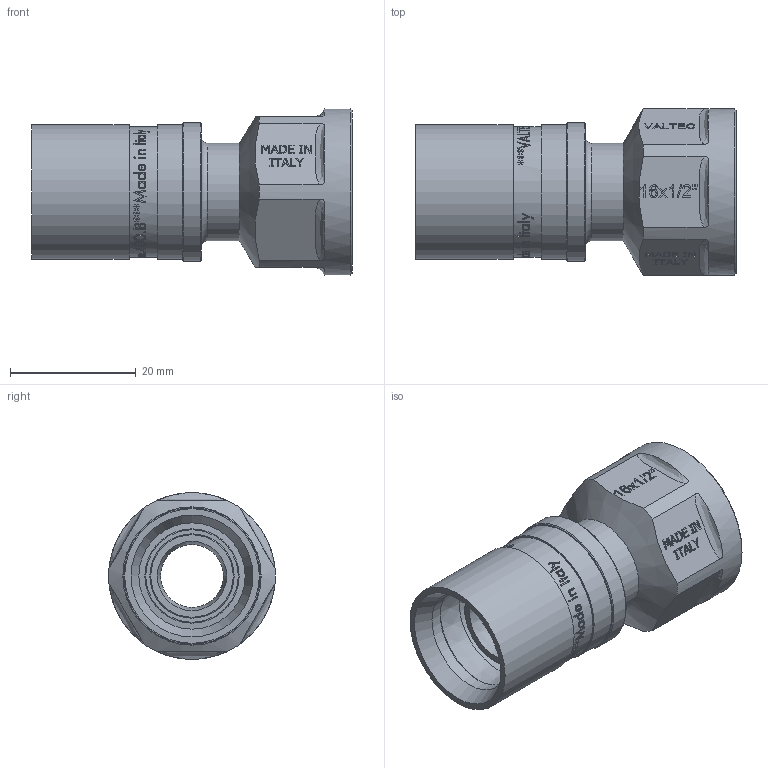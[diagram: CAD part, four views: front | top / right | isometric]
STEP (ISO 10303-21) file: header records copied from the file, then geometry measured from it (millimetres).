
FILE_DESCRIPTION(/* description */ (''),/* implementation_level */ '2;1');
FILE_NAME(/* name */ 'F:\Артём\00000\Работа удаленка\Аксеальные фитинги\VTm.402.BG.001604.stp',/* time_stamp */ '2021-01-25T14:14:32+03:00',/* author */ ('almis'),/* organization */ (''),/* preprocessor_version */ 'ST-DEVELOPER v18',/* originating_system */ 'Autodesk Inventor 2020',/* authorisation */ '');
FILE_SCHEMA (('AUTOMOTIVE_DESIGN { 1 0 10303 214 3 1 1 }'));
Length unit declared in the file: millimetre
Products named in the file (1): VTm.403.BG.001616
Bounding box: 51.01 x 26.5 x 26.5 mm (x, y, z)
Volume: 9693.5 mm3; surface area: 9278.4 mm2
Topology: 1 solids, 1 shells, 964 faces, 2658 edges, 1787 vertices
Faces by surface type: plane 438, bspline 405, cylinder 86, torus 23, cone 12
Full cylindrical faces by diameter (mm): 10 x1, 12.8 x5, 13.4 x4, 15 x1, 15.5 x1, 16.9 x2, 18.6 x1, 20.8 x1, 21.4 x2, 22 x8, 26.5 x1
Entity records: 39677 total; most frequent: CARTESIAN_POINT 17483, ORIENTED_EDGE 5316, DIRECTION 3319, EDGE_CURVE 2658, VERTEX_POINT 1787, LINE 1431, VECTOR 1431, EDGE_LOOP 1057
